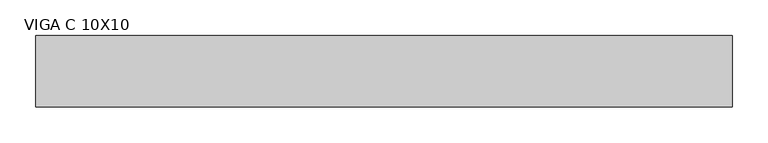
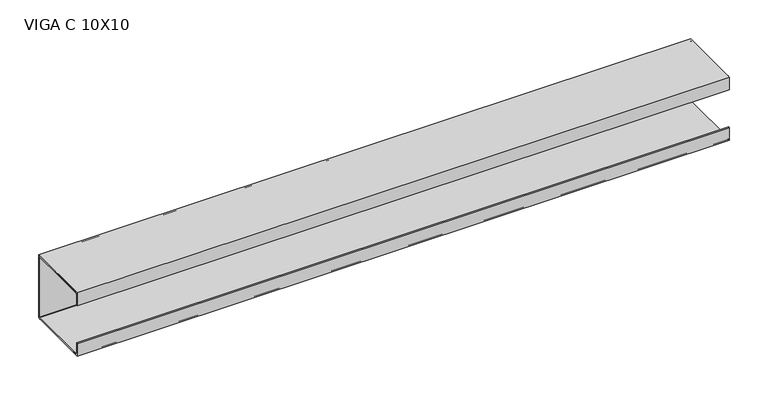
"""IFC4 building model written with IfcOpenShell, lengths in millimetres: beam geometry, VIGA PERFIL C AÇO : VIGA C 10X10."""

import ifcopenshell
import ifcopenshell.guid

model = None  # the IFC model being written
_history = None  # IfcOwnerHistory: only IFC2X3 demands one
_inside = {}  # id of a spatial element -> (the spatial element, [elements in it])
_under = {}  # id of a project, library or spatial element -> (it, [spatial elements below it])
_declared = {}  # id of a project -> (the project, [libraries it declares])
_typed = {}  # id of a type object -> (the type object, [elements of that type])
_made_of = {}  # id of a material, layer set ... -> (it, [elements and type objects made of it])


def new_model(schema):
    """Start an empty IFC model of exactly this schema.

    Asked for "IFC4X3", IfcOpenShell would pick the latest addendum, in which some entities
    have other attributes; the version numbers below select the first issue.
    IFC2X3 requires an IfcOwnerHistory on every rooted entity: one is made here for all.
    """
    global model, _history
    if schema == "IFC4X3":
        model = ifcopenshell.file(schema_version=(4, 3, 0, 0))
    else:
        model = ifcopenshell.file(schema=schema)
    _inside.clear()
    _under.clear()
    _declared.clear()
    _typed.clear()
    _made_of.clear()
    _history = None
    if model.schema == "IFC2X3":
        org = make("IfcOrganization", Name="unknown")
        user = make(
            "IfcPersonAndOrganization",
            ThePerson=make("IfcPerson", FamilyName="unknown"),
            TheOrganization=org,
        )
        app = make(
            "IfcApplication",
            ApplicationDeveloper=org,
            Version="unknown",
            ApplicationFullName="unknown",
            ApplicationIdentifier="unknown",
        )
        _history = make(
            "IfcOwnerHistory",
            OwningUser=user,
            OwningApplication=app,
            ChangeAction="ADDED",
            CreationDate=0,
        )
    return model


def make(cls, **values):
    """One entity of the class cls with the attributes given. An attribute that is None is left unset."""
    return model.create_entity(
        cls, **{name: value for name, value in values.items() if value is not None}
    )


def rooted(cls, **values):
    """An entity with a GlobalId (a new one), such as an element, a storey or a relation."""
    return make(cls, GlobalId=ifcopenshell.guid.new(), OwnerHistory=_history, **values)


def si_unit(unit_type, name, prefix=None):
    """IfcSIUnit, for example si_unit("LENGTHUNIT", "METRE", prefix="MILLI")."""
    return make("IfcSIUnit", UnitType=unit_type, Prefix=prefix, Name=name)


def assignment(units):
    """IfcUnitAssignment: the units of a project."""
    return None if units is None else make("IfcUnitAssignment", Units=units)


def point(xyz):
    """IfcCartesianPoint."""
    return None if xyz is None else make("IfcCartesianPoint", Coordinates=xyz)


def direction(xyz):
    """IfcDirection."""
    return None if xyz is None else make("IfcDirection", DirectionRatios=xyz)


def frame(location, z_axis=None, x_axis=None):
    """IfcAxis2Placement3D, a coordinate frame: its origin and axes. An axis left out is left unset."""
    return make(
        "IfcAxis2Placement3D",
        Location=point(location),
        Axis=direction(z_axis),
        RefDirection=direction(x_axis),
    )


def frame_2d(location, x_axis=None):
    """IfcAxis2Placement2D, a coordinate frame in the plane: its origin and x axis."""
    return make(
        "IfcAxis2Placement2D", Location=point(location), RefDirection=direction(x_axis)
    )


def origin():
    """The frame at (0, 0, 0) with its axes left unset."""
    return frame((0.0, 0.0, 0.0))


def place(relative_to, where):
    """IfcLocalPlacement: puts the frame where relative to a parent placement (None: the world)."""
    return make(
        "IfcLocalPlacement", PlacementRelTo=relative_to, RelativePlacement=where
    )


def context(
    kind, dimensions, precision=None, world=None, true_north=None, identifier=None
):
    """IfcGeometricRepresentationContext, for example the 3D "Model" context."""
    return make(
        "IfcGeometricRepresentationContext",
        ContextIdentifier=identifier,
        ContextType=kind,
        CoordinateSpaceDimension=dimensions,
        Precision=precision,
        WorldCoordinateSystem=world,
        TrueNorth=true_north,
    )


def project(units=None, contexts=None):
    """IfcProject with its units and contexts."""
    return rooted(
        "IfcProject",
        Name="project",
        RepresentationContexts=contexts,
        UnitsInContext=assignment(units),
    )


def spatial(cls, under=None, at=None, **own):
    """A site, building, storey or space (cls), placed at a placement, below another one or the project."""
    s = rooted(cls, ObjectPlacement=at, **own)
    if under is not None:
        _under.setdefault(under.id(), (under, []))[1].append(s)
    return s


def polyline(points):
    """IfcPolyline through the points."""
    return make("IfcPolyline", Points=[point(p) for p in points])


def circle_curve(where, radius):
    """IfcCircle in the frame where."""
    return make("IfcCircle", Position=where, Radius=radius)


def trimmed(basis, trim1, trim2, sense, master):
    """IfcTrimmedCurve: the piece of a basis curve between two trims."""
    return make(
        "IfcTrimmedCurve",
        BasisCurve=basis,
        Trim1=trim1,
        Trim2=trim2,
        SenseAgreement=sense,
        MasterRepresentation=master,
    )


def segment(curve, same_sense, transition):
    """IfcCompositeCurveSegment."""
    return make(
        "IfcCompositeCurveSegment",
        Transition=transition,
        SameSense=same_sense,
        ParentCurve=curve,
    )


def composite_curve(segments, self_intersect=None):
    """IfcCompositeCurve: segments joined end to end."""
    return make("IfcCompositeCurve", Segments=segments, SelfIntersect=self_intersect)


def outline(outer, holes=None, kind="AREA"):
    """IfcArbitraryClosedProfileDef: a profile drawn as a closed curve; with holes, ...WithVoids."""
    if holes is None:
        return make("IfcArbitraryClosedProfileDef", ProfileType=kind, OuterCurve=outer)
    return make(
        "IfcArbitraryProfileDefWithVoids",
        ProfileType=kind,
        OuterCurve=outer,
        InnerCurves=holes,
    )


def extrude(swept, where, along, depth):
    """IfcExtrudedAreaSolid: the profile swept, set in the frame where, extruded along a direction by depth."""
    return make(
        "IfcExtrudedAreaSolid",
        SweptArea=swept,
        Position=where,
        ExtrudedDirection=direction(along),
        Depth=depth,
    )


def shape(context_of_items, identifier, shape_type, items):
    """IfcShapeRepresentation: the items that make up one representation, for example the "Body"."""
    return make(
        "IfcShapeRepresentation",
        ContextOfItems=context_of_items,
        RepresentationIdentifier=identifier,
        RepresentationType=shape_type,
        Items=items,
    )


def source(mapping_origin, context_of_items, identifier, shape_type, items):
    """IfcRepresentationMap: a shape defined once, which mapped items show again and again."""
    return make(
        "IfcRepresentationMap",
        MappingOrigin=mapping_origin,
        MappedRepresentation=shape(context_of_items, identifier, shape_type, items),
    )


def transform(
    local_origin,
    x_axis=None,
    y_axis=None,
    z_axis=None,
    scale=None,
    scale2=None,
    scale3=None,
    uniform=True,
):
    """IfcCartesianTransformationOperator3D, or its non-uniform kind. x_axis, y_axis, z_axis: its Axis1, 2, 3."""
    if uniform:
        return make(
            "IfcCartesianTransformationOperator3D",
            Axis1=direction(x_axis),
            Axis2=direction(y_axis),
            LocalOrigin=point(local_origin),
            Scale=scale,
            Axis3=direction(z_axis),
        )
    return make(
        "IfcCartesianTransformationOperator3DnonUniform",
        Axis1=direction(x_axis),
        Axis2=direction(y_axis),
        LocalOrigin=point(local_origin),
        Scale=scale,
        Axis3=direction(z_axis),
        Scale2=scale2,
        Scale3=scale3,
    )


def mapped(mapping_source, mapping_target):
    """IfcMappedItem: shows the shape of a source again, moved by a transform."""
    return make(
        "IfcMappedItem", MappingSource=mapping_source, MappingTarget=mapping_target
    )


def made_of(thing, what):
    """Note that an element or type object is made of a material, layer set ...; save() writes the relation."""
    if what is not None:
        _made_of.setdefault(what.id(), (what, []))[1].append(thing)
    return thing


def element(
    cls,
    number,
    at=None,
    inside=None,
    cuts=None,
    type_object=None,
    material=None,
    context=None,
    identifier="Body",
    shape_type=None,
    held_by="IfcProductDefinitionShape",
    body=None,
    shapes=None,
    **own,
):
    """One element of the class cls, such as IfcWall. Its Tag is "e" and its number.

    at: its placement. inside: the storey or other place that contains it. cuts: it is an
    opening in that element (IfcRelVoidsElement). A single representation is given by context,
    identifier, shape_type and body (its items); several are given by shapes. held_by: the class
    of the entity that holds the representations. save() writes the other relations.
    """
    e = rooted(cls, Tag="e%d" % number, ObjectPlacement=at, **own)
    if body is not None:
        shapes = [shape(context, identifier, shape_type, body)]
    if shapes is not None:
        e.Representation = make(held_by, Representations=shapes)
    if inside is not None:
        _inside.setdefault(inside.id(), (inside, []))[1].append(e)
    if cuts is not None:
        rooted(
            "IfcRelVoidsElement", RelatingBuildingElement=cuts, RelatedOpeningElement=e
        )
    if type_object is not None:
        _typed.setdefault(type_object.id(), (type_object, []))[1].append(e)
    return made_of(e, material)


def aggregate(whole, parts):
    """IfcRelAggregates: a whole, such as a stair, and the parts it consists of."""
    return rooted("IfcRelAggregates", RelatingObject=whole, RelatedObjects=parts)


def save(model, path):
    """Write the relations noted so far, then the file.

    IfcRelAggregates (storeys below a building ...), IfcRelContainedInSpatialStructure (elements
    in a storey), IfcRelDefinesByType, IfcRelAssociatesMaterial and IfcRelDeclares: one each for
    every whole, place, type object, material and project.
    """
    for whole, parts in _under.values():
        aggregate(whole, parts)
    for where, things in _inside.values():
        rooted(
            "IfcRelContainedInSpatialStructure",
            RelatedElements=things,
            RelatingStructure=where,
        )
    for kind, things in _typed.values():
        rooted("IfcRelDefinesByType", RelatedObjects=things, RelatingType=kind)
    for what, things in _made_of.values():
        rooted("IfcRelAssociatesMaterial", RelatedObjects=things, RelatingMaterial=what)
    for by, libraries in _declared.values():
        rooted("IfcRelDeclares", RelatingContext=by, RelatedDefinitions=libraries)
    model.write(path)


def viga_c_10x10_f4694822(model_context):
    return source(origin(), model_context, "Body", "SweptSolid", [
        extrude(outline(polyline([(9.2, -50.0), (-90.8, -50.0), (-90.8, -30.0), (-88.9, -30.0), (-88.9, -48.1), (7.3, -48.1), (7.3, 48.1), (-88.9, 48.1), (-88.9, 30.0), (-90.8, 30.0), (-90.8, 50.0), (9.2, 50.0), (9.2, -50.0)])), frame((-520.5, 0.0, 0.0), z_axis=(1.0, 0.0, 0.0), x_axis=(0.0, 1.0, 0.0)), (0.0, 0.0, 1.0), 974.0),
        extrude(outline(composite_curve([segment(trimmed(circle_curve(frame_2d((5.4, -46.2)), 3.8), [point((9.2, -46.2))], [point((5.4, -50.0))], False, "CARTESIAN"), True, "CONTINUOUS"), segment(polyline([(5.4, -50.0), (-87.0, -50.0)]), True, "CONTINUOUS"), segment(trimmed(circle_curve(frame_2d((-87.0, -46.2)), 3.8), [point((-87.0, -50.0))], [point((-90.8, -46.2))], False, "CARTESIAN"), True, "CONTINUOUS"), segment(polyline([(-90.8, -46.2), (-90.8, -30.0), (-88.9, -30.0), (-88.9, -46.2)]), True, "CONTINUOUS"), segment(trimmed(circle_curve(frame_2d((-87.0, -46.2)), 1.9), [point((-88.9, -46.2))], [point((-87.0, -48.1))], True, "CARTESIAN"), True, "CONTINUOUS"), segment(polyline([(-87.0, -48.1), (5.4, -48.1)]), True, "CONTINUOUS"), segment(trimmed(circle_curve(frame_2d((5.4, -46.2)), 1.9), [point((5.4, -48.1))], [point((7.3, -46.2))], True, "CARTESIAN"), True, "CONTINUOUS"), segment(polyline([(7.3, -46.2), (7.3, 46.2)]), True, "CONTINUOUS"), segment(trimmed(circle_curve(frame_2d((5.4, 46.2)), 1.9), [point((7.3, 46.2))], [point((5.4, 48.1))], True, "CARTESIAN"), True, "CONTINUOUS"), segment(polyline([(5.4, 48.1), (-87.0, 48.1)]), True, "CONTINUOUS"), segment(trimmed(circle_curve(frame_2d((-87.0, 46.2)), 1.9), [point((-87.0, 48.1))], [point((-88.9, 46.2))], True, "CARTESIAN"), True, "CONTINUOUS"), segment(polyline([(-88.9, 46.2), (-88.9, 30.0), (-90.8, 30.0), (-90.8, 46.2)]), True, "CONTINUOUS"), segment(trimmed(circle_curve(frame_2d((-87.0, 46.2)), 3.8), [point((-90.8, 46.2))], [point((-87.0, 50.0))], False, "CARTESIAN"), True, "CONTINUOUS"), segment(polyline([(-87.0, 50.0), (5.4, 50.0)]), True, "CONTINUOUS"), segment(trimmed(circle_curve(frame_2d((5.4, 46.2)), 3.8), [point((5.4, 50.0))], [point((9.2, 46.2))], False, "CARTESIAN"), True, "CONTINUOUS"), segment(polyline([(9.2, 46.2), (9.2, -46.2)]), True, "CONTINUOUS")], self_intersect=False)), frame((-520.5, 0.0, 0.0), z_axis=(1.0, 0.0, 0.0), x_axis=(0.0, 1.0, 0.0)), (0.0, 0.0, 1.0), 974.0),
    ])


if __name__ == "__main__":
    model = new_model("IFC4")
    model_context = context("Model", 3, world=origin())
    ifc_project = project(units=[si_unit("LENGTHUNIT", "METRE", prefix="MILLI")], contexts=[model_context])
    site = spatial("IfcSite", under=ifc_project)
    building = spatial("IfcBuilding", under=site)
    placement = place(None, origin())
    viga_c_10x10_shape = viga_c_10x10_f4694822(model_context)
    element("IfcBeam", 1, ObjectType="VIGA PERFIL C AÇO : VIGA C 10X10", at=placement, inside=building, context=model_context, shape_type="MappedRepresentation", body=[
        mapped(viga_c_10x10_shape, transform((0.0, 0.0, 0.0), x_axis=(1.0, 0.0, 0.0), y_axis=(0.0, 1.0, 0.0), z_axis=(0.0, 0.0, 1.0))),
    ])
    save(model, "model.ifc")
